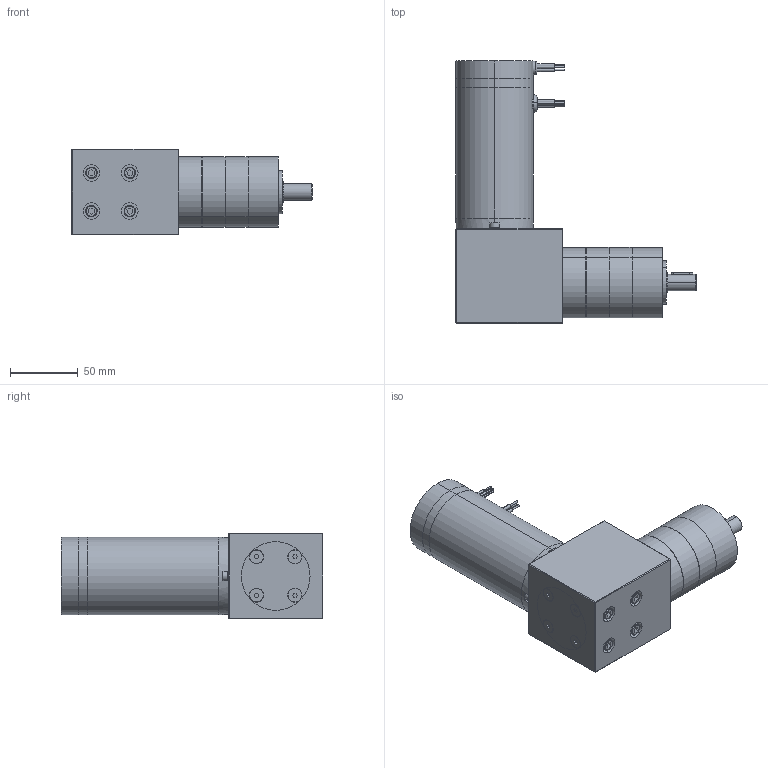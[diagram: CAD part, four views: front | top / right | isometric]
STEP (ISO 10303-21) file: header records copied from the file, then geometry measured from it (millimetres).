
FILE_DESCRIPTION (( 'STEP AP203' ), '1' );
FILE_NAME ('bl58487gra3.step', '2018-12-07T19:02:50', ( '' ), ( '' ), 'SwSTEP 2.0', 'SolidWorks 2017', '' );
FILE_SCHEMA (( 'CONFIG_CONTROL_DESIGN' ));
Length unit declared in the file: inch
Products named in the file (1): bl58487gra3
Bounding box: 177.37 x 193.47 x 63.5 mm (x, y, z)
Volume: 818438.3 mm3; surface area: 129444.4 mm2
Topology: 30 solids, 30 shells, 620 faces, 1336 edges, 832 vertices
Faces by surface type: plane 266, cylinder 240, cone 109, torus 5
Entity records: 16949 total; most frequent: DIRECTION 3116, CARTESIAN_POINT 2967, ORIENTED_EDGE 2624, EDGE_CURVE 1312, AXIS2_PLACEMENT_3D 1195, VERTEX_POINT 832, EDGE_LOOP 742, VECTOR 726
